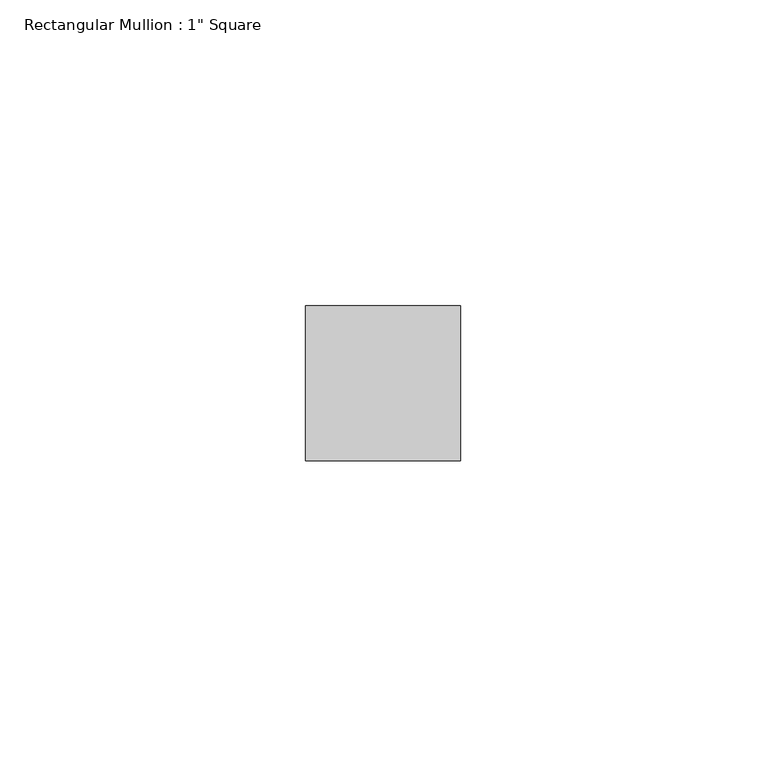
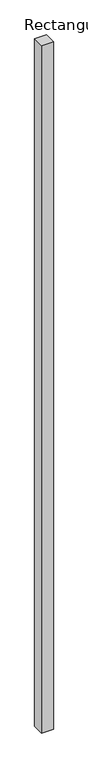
"""IFC4 building model written with IfcOpenShell, lengths in millimetres: member geometry."""

from ifc_helpers import new_model, si_unit, frame, origin, place, context, project, spatial, polyline, outline, extrude, source, transform, mapped, element, save


def member_4657b864(model_context):
    return source(origin(), model_context, "Body", "SweptSolid", [
        extrude(outline(polyline([(12.7, 12.7), (12.7, -12.7), (-12.7, -12.7), (-12.7, 12.7), (12.7, 12.7)])), frame((0.0, 0.0, -1559.6944875), z_axis=(0.0, 0.0, 1.0), x_axis=(1.0, 0.0, 0.0)), (0.0, 0.0, 1.0), 1559.6944875),
    ])


if __name__ == "__main__":
    model = new_model("IFC4")
    model_context = context("Model", 3, world=origin())
    ifc_project = project(units=[si_unit("LENGTHUNIT", "METRE", prefix="MILLI")], contexts=[model_context])
    site = spatial("IfcSite", under=ifc_project)
    building = spatial("IfcBuilding", under=site)
    placement = place(None, origin())
    member_shape = member_4657b864(model_context)
    element("IfcMember", 1, ObjectType="Rectangular Mullion : 1\" Square", at=placement, inside=building, context=model_context, shape_type="MappedRepresentation", body=[
        mapped(member_shape, transform((0.0, 0.0, 0.0), x_axis=(1.0, 0.0, 0.0), y_axis=(0.0, 1.0, 0.0), z_axis=(0.0, 0.0, 1.0))),
    ])
    save(model, "model.ifc")
